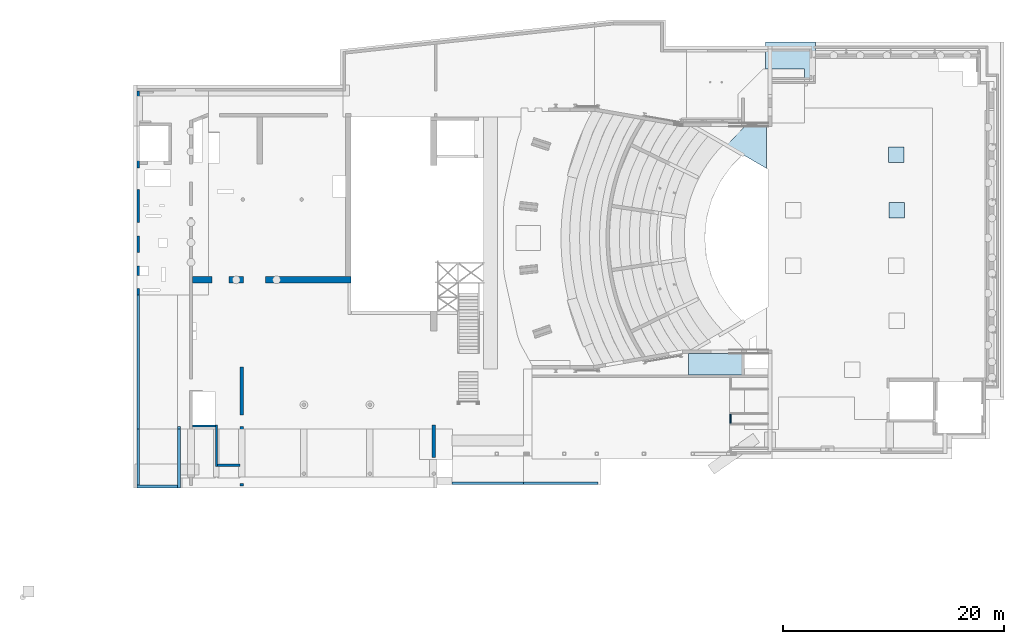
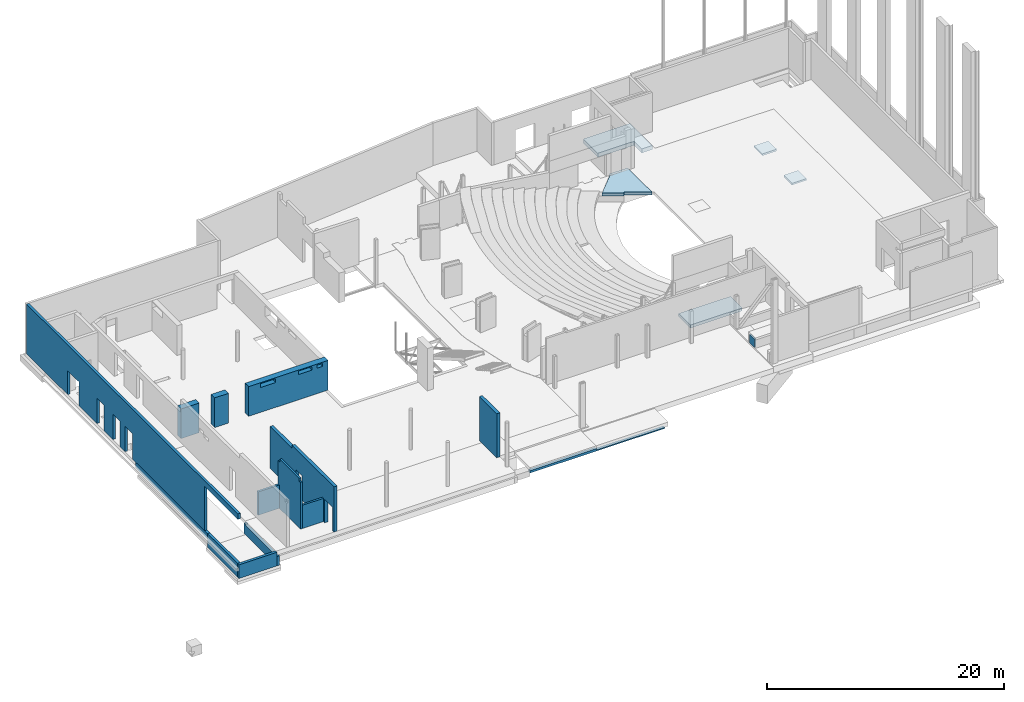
# One storey, part 24 of 34: 13 walls, 5 slabs, 17 openings.
"""IFC2X3 building model written with IfcOpenShell, lengths in millimetres."""

from ifc_helpers import new_model, entity, si_unit, converted_unit, derived_unit, direction, frame, frame_2d, origin, origin_2d_with_axis, place, context, subcontext, project, spatial, polyline, rectangle, outline, extrude, clip, bounded_halfspace, faceted_brep, material, layer, layer_set, layer_usage, type_object, element, save


model = new_model("IFC2X3")

# Units and contexts
model_context = context("Model", 3, precision=0.01, world=origin(), true_north=direction((6.12303176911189e-17, 1.0)))
body_context = subcontext(model_context, "Body", "Model", "MODEL_VIEW")
ifc_project = project(units=[si_unit("LENGTHUNIT", "METRE", prefix="MILLI"), si_unit("AREAUNIT", "SQUARE_METRE", prefix="MILLI"), si_unit("VOLUMEUNIT", "CUBIC_METRE"), converted_unit("PLANEANGLEUNIT", "DEGREE", entity("IfcRatioMeasure", 0.0174532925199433), si_unit("PLANEANGLEUNIT", "RADIAN"), dimensions=[0, 0, 0, 0, 0, 0, 0]), si_unit("MASSUNIT", "GRAM", prefix="KILO"), derived_unit("MASSDENSITYUNIT", [(si_unit("MASSUNIT", "GRAM", prefix="KILO"), 1), (si_unit("LENGTHUNIT", "METRE"), -3)]), derived_unit("MOMENTOFINERTIAUNIT", [(si_unit("LENGTHUNIT", "METRE"), 4)]), si_unit("TIMEUNIT", "SECOND"), si_unit("FREQUENCYUNIT", "HERTZ"), si_unit("THERMODYNAMICTEMPERATUREUNIT", "DEGREE_CELSIUS"), derived_unit("THERMALTRANSMITTANCEUNIT", [(si_unit("MASSUNIT", "GRAM", prefix="KILO"), 1), (si_unit("THERMODYNAMICTEMPERATUREUNIT", "KELVIN"), -1), (si_unit("TIMEUNIT", "SECOND"), -3)]), derived_unit("VOLUMETRICFLOWRATEUNIT", [(si_unit("LENGTHUNIT", "METRE"), 3), (si_unit("TIMEUNIT", "SECOND"), -1)]), si_unit("ELECTRICCURRENTUNIT", "AMPERE"), si_unit("ELECTRICVOLTAGEUNIT", "VOLT"), si_unit("POWERUNIT", "WATT"), si_unit("FORCEUNIT", "NEWTON", prefix="KILO"), si_unit("ILLUMINANCEUNIT", "LUX"), si_unit("LUMINOUSFLUXUNIT", "LUMEN"), si_unit("LUMINOUSINTENSITYUNIT", "CANDELA"), derived_unit("USERDEFINED", [(si_unit("MASSUNIT", "GRAM", prefix="KILO"), -1), (si_unit("LENGTHUNIT", "METRE"), -2), (si_unit("TIMEUNIT", "SECOND"), 3), (si_unit("LUMINOUSFLUXUNIT", "LUMEN"), 1)]), derived_unit("LINEARVELOCITYUNIT", [(si_unit("LENGTHUNIT", "METRE"), 1), (si_unit("TIMEUNIT", "SECOND"), -1)]), si_unit("PRESSUREUNIT", "PASCAL"), derived_unit("USERDEFINED", [(si_unit("LENGTHUNIT", "METRE"), -2), (si_unit("MASSUNIT", "GRAM", prefix="KILO"), 1), (si_unit("TIMEUNIT", "SECOND"), -2)]), derived_unit("LINEARFORCEUNIT", [(si_unit("MASSUNIT", "GRAM", prefix="KILO"), 1), (si_unit("LENGTHUNIT", "METRE"), 1), (si_unit("TIMEUNIT", "SECOND"), -2), (si_unit("LENGTHUNIT", "METRE"), -1)]), derived_unit("PLANARFORCEUNIT", [(si_unit("MASSUNIT", "GRAM", prefix="KILO"), 1), (si_unit("LENGTHUNIT", "METRE"), 1), (si_unit("TIMEUNIT", "SECOND"), -2), (si_unit("LENGTHUNIT", "METRE"), -2)])], contexts=[model_context])

# Site, building, storey
site_placement = place(None, origin())
site = spatial("IfcSite", under=ifc_project, at=site_placement, Name="Theater aan de Parade", CompositionType="ELEMENT")
building_placement = place(site_placement, origin())
building = spatial("IfcBuilding", under=site, at=building_placement, Name="Theater aan de Parade", CompositionType="ELEMENT")
storey_placement = place(building_placement, frame((0.0, 0.0, 3.49116848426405e-09)))
storey = spatial("IfcBuildingStorey", under=building, at=storey_placement, Name="00 begane grond", CompositionType="ELEMENT", Elevation=3.49116848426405e-09)

# Slabs
ifc_material_1 = material(Name="00_PBT_MAT_beton t.p.g._C30/37")
slab_type_1 = type_object("IfcSlabType", Name="Floor:28_PBT_FL_beton t.p.g._d=300_C30/37", PredefinedType="FLOOR")
slab_1_placement = place(storey_placement, origin())
element("IfcSlab", 1, at=slab_1_placement, inside=storey, type_object=slab_type_1, material=ifc_material_1, Name="Floor:28_PBT_FL_beton t.p.g._d=300_C30/37", ObjectType="Floor:28_PBT_FL_beton t.p.g._d=300_C30/37", PredefinedType="FLOOR", context=body_context, shape_type="Brep", body=[
    faceted_brep([(65212.0520755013, 20066.34014876, 660.0), (64962.0520755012, 20066.34014876, 660.0), (60162.6896489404, 20066.34014876, 660.0), (60162.6896489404, 22040.0, 660.0), (63839.0610079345, 22040.0, 660.0), (63839.0610079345, 22020.0, 660.0), (65212.0520755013, 22020.0, 660.0), (65212.0520755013, 22040.0, 960.0), (64962.0520755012, 22040.0, 960.0), (60162.6896489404, 22040.0, 960.0), (60162.6896489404, 20066.34014876, 960.0), (64962.0520755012, 20066.34014876, 960.0), (65212.0520755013, 20066.34014876, 960.0), (65212.0520755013, 22040.0, 825.0), (63839.0610079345, 22040.0, 825.0), (65212.0520755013, 22020.0, 825.0), (63839.0610079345, 22020.0, 825.0)], [[[0, 1, 2, 3, 4, 5, 6]], [[7, 8, 9, 10, 11, 12]], [[9, 8, 7, 13, 14, 4, 3]], [[7, 12, 0, 6, 15, 13]], [[2, 1, 0, 12, 11, 10]], [[3, 2, 10, 9]], [[14, 16, 5, 4]], [[5, 16, 15, 6]], [[16, 14, 13, 15]]]),
])
ifc_material_2 = material(Name="00_PBT_MAT_beton t.p.g.")
ifc_layer_1 = layer(ifc_material_2, 300.0)
ifc_layer_set_1 = layer_set([ifc_layer_1], Name="Floor:28_PBT_FL_beton t.p.g._d=300_bestaand")
ifc_layer_usage_1 = layer_usage(ifc_layer_set_1, "AXIS3", "POSITIVE", 0.0)
slab_type_2 = type_object("IfcSlabType", Name="Floor:28_PBT_FL_beton t.p.g._d=300_bestaand", PredefinedType="FLOOR", material=ifc_layer_set_1)
slab_2_placement = place(storey_placement, origin())
element("IfcSlab", 2, at=slab_2_placement, inside=storey, type_object=slab_type_2, material=ifc_layer_usage_1, Name="Floor:28_PBT_FL_beton t.p.g._d=300_bestaand", ObjectType="Floor:28_PBT_FL_beton t.p.g._d=300_bestaand", PredefinedType="FLOOR", context=body_context, shape_type="SweptSolid", body=[
    extrude(outline(polyline([(-1762.11653079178, -1629.19038818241), (2336.99025271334, -1629.19038818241), (1155.96511033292, 390.006675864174), (1293.174292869, 469.210166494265), (360.219936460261, 2085.42560811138), (-1622.11653079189, 156.869162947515), (-1762.1165307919, 156.869162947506), (-1762.11653079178, -1629.19038818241)])), frame((65576.8691629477, 41087.8834692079, 880.0), z_axis=(0.0, 0.0, -1.0), x_axis=(0.0, -1.0, 0.0)), (0.0, 0.0, 1.0), 300.0),
])
ifc_layer_2 = layer(ifc_material_1, 450.0)
ifc_layer_set_2 = layer_set([ifc_layer_2], Name="Floor:28_PBT_FL_beton t.p.g._d=450_C30/37")
ifc_layer_usage_2 = layer_usage(ifc_layer_set_2, "AXIS3", "POSITIVE", 0.0)
slab_type_3 = type_object("IfcSlabType", Name="Floor:28_PBT_FL_beton t.p.g._d=450_C30/37", PredefinedType="FLOOR", material=ifc_layer_set_2)
slab_3_placement = place(storey_placement, origin())
element("IfcSlab", 3, at=slab_3_placement, inside=storey, type_object=slab_type_3, material=ifc_layer_usage_2, Name="Floor:28_PBT_FL_beton t.p.g._d=450_C30/37", ObjectType="Floor:28_PBT_FL_beton t.p.g._d=450_C30/37", PredefinedType="FLOOR", context=body_context, shape_type="SweptSolid", body=[
    extrude(rectangle(XDim=1399.99999999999, YDim=1399.99999999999, at=origin_2d_with_axis()), frame((78955.0, 39965.0, 430.0), z_axis=(0.0, 0.0, 1.0), x_axis=(0.0, 1.0, 0.0)), (0.0, 0.0, 1.0), 180.000000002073),
])
ifc_layer_usage_3 = layer_usage(ifc_layer_set_2, "AXIS3", "POSITIVE", 0.0)
slab_type_4 = type_object("IfcSlabType", Name="Floor:28_PBT_FL_beton t.p.g._d=450_C30/37", PredefinedType="FLOOR", material=ifc_layer_set_2)
slab_4_placement = place(storey_placement, origin())
element("IfcSlab", 4, at=slab_4_placement, inside=storey, type_object=slab_type_4, material=ifc_layer_usage_3, Name="Floor:28_PBT_FL_beton t.p.g._d=450_C30/37", ObjectType="Floor:28_PBT_FL_beton t.p.g._d=450_C30/37", PredefinedType="FLOOR", context=body_context, shape_type="SweptSolid", body=[
    extrude(rectangle(XDim=1399.99999999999, YDim=1399.99999999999, at=origin_2d_with_axis()), frame((78965.0, 34970.0, 430.0), z_axis=(0.0, 0.0, 1.0), x_axis=(0.0, 1.0, 0.0)), (0.0, 0.0, 1.0), 180.000000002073),
])
ifc_layer_3 = layer(ifc_material_1, 400.0)
ifc_layer_set_3 = layer_set([ifc_layer_3], Name="Foundation Slab:13_PBT_FS_beton t.p.g._d=400_C30/37")
ifc_layer_usage_4 = layer_usage(ifc_layer_set_3, "AXIS3", "POSITIVE", 0.0)
slab_type_5 = type_object("IfcSlabType", Name="Foundation Slab:13_PBT_FS_beton t.p.g._d=400_C30/37", PredefinedType="BASESLAB", material=ifc_layer_set_3)
slab_5_placement = place(storey_placement, origin())
element("IfcSlab", 5, at=slab_5_placement, inside=storey, type_object=slab_type_5, material=ifc_layer_usage_4, Name="Foundation Slab:13_PBT_FS_beton t.p.g._d=400_C30/37", ObjectType="Foundation Slab:13_PBT_FS_beton t.p.g._d=400_C30/37", PredefinedType="BASESLAB", context=body_context, shape_type="SweptSolid", body=[
    extrude(outline(polyline([(-379.290780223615, -2694.81926727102), (2068.70921977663, -2694.81926727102), (2068.70921977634, 1855.90963363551), (-1689.41843955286, 1855.90963363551), (-1689.41843955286, 838.909633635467), (-379.290780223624, 838.909633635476), (-379.290780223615, -2694.81926727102)])), frame((69801.0903663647, 48101.2907802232, -550.0), z_axis=(0.0, 0.0, -1.0), x_axis=(0.0, 1.0, 0.0)), (0.0, 0.0, 1.0), 400.0),
])

# Wall
ifc_layer_4 = layer(ifc_material_1, 300.0)
ifc_layer_set_4 = layer_set([ifc_layer_4], Name="Basic Wall:28_PBT_WA_beton t.p.g._d=300_C30/37")
ifc_layer_usage_5 = layer_usage(ifc_layer_set_4, "AXIS2", "NEGATIVE", 150.0)
wall_type_1 = type_object("IfcWallType", Name="Basic Wall:28_PBT_WA_beton t.p.g._d=300_C30/37", PredefinedType="STANDARD", material=ifc_layer_set_4)
wall_1_placement = place(storey_placement, frame((37153.8581300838, 15560.5355657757, -90.0), z_axis=(0.0, 0.0, 1.0), x_axis=(0.0, -1.0, 0.0)))
element("IfcWallStandardCase", 6, at=wall_1_placement, inside=storey, type_object=wall_type_1, material=ifc_layer_usage_5, Name="Basic Wall:28_PBT_WA_beton t.p.g._d=300_C30/37", ObjectType="Basic Wall:28_PBT_WA_beton t.p.g._d=300_C30/37", context=body_context, shape_type="SweptSolid", body=[
    extrude(rectangle(XDim=2935.0735709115, YDim=300.000000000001, at=frame_2d((1467.53678545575, 9.80548975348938e-13), x_axis=(-1.0, 0.0))), origin(), (0.0, 0.0, 1.0), 4539.99999999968),
])

# Wall, openings
ifc_layer_5 = layer(ifc_material_1, 250.0)
ifc_layer_set_5 = layer_set([ifc_layer_5], Name="Basic Wall:28_PBT_WA_beton t.p.g._d=250_C30/37")
ifc_layer_usage_6 = layer_usage(ifc_layer_set_5, "AXIS2", "POSITIVE", -125.0)
wall_type_2 = type_object("IfcWallType", Name="Basic Wall:28_PBT_WA_beton t.p.g._d=250_C30/37", PredefinedType="STANDARD", material=ifc_layer_set_5)
wall_2_placement = place(storey_placement, frame((10429.1125537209, 10069.3270746, -90.0), z_axis=(0.0, 0.0, 1.0), x_axis=(0.0, 1.0, 0.0)))
wall_2 = element("IfcWallStandardCase", 7, at=wall_2_placement, inside=storey, type_object=wall_type_2, material=ifc_layer_usage_6, Name="Basic Wall:28_PBT_WA_beton t.p.g._d=250_C30/37", ObjectType="Basic Wall:28_PBT_WA_beton t.p.g._d=250_C30/37", context=body_context, shape_type="SweptSolid", body=[
    extrude(rectangle(XDim=35653.6729253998, YDim=249.999999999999, at=frame_2d((17826.8364626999, 3.12638803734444e-13), x_axis=(-1.0, 0.0))), origin(), (0.0, 0.0, 1.0), 5109.99999999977),
])
opening_1_placement = place(wall_2_placement, origin())
element("IfcOpeningElement", 8, at=opening_1_placement, cuts=wall_2, Name="Basic Wall:28_PBT_WA_beton t.p.g._d=250_C30/37", ObjectType="Opening", context=body_context, shape_type="SweptSolid", body=[
    extrude(rectangle(XDim=2459.99999999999, YDim=1934.00000000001, at=frame_2d((0.0, 2.21689333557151e-12), x_axis=(1.0, 0.0))), frame((27741.5685535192, -125.0, 1230.0), z_axis=(0.0, 1.0, 0.0), x_axis=(0.0, 0.0, -1.0)), (0.0, 0.0, 1.0), 249.999999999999),
])
opening_2_placement = place(wall_2_placement, origin())
element("IfcOpeningElement", 9, at=opening_2_placement, cuts=wall_2, Name="Basic Wall:28_PBT_WA_beton t.p.g._d=250_C30/37", ObjectType="Opening", context=body_context, shape_type="SweptSolid", body=[
    extrude(rectangle(XDim=2619.99999999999, YDim=1210.00000000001, at=frame_2d((-2.1600499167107e-12, 0.0), x_axis=(0.0, 1.0))), frame((23171.9813376, -125.0, 1310.0), z_axis=(0.0, 1.0, 0.0), x_axis=(1.0, 0.0, 0.0)), (0.0, 0.0, 1.0), 249.999999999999),
])
opening_3_placement = place(wall_2_placement, origin())
element("IfcOpeningElement", 10, at=opening_3_placement, cuts=wall_2, Name="Basic Wall:28_PBT_WA_beton t.p.g._d=250_C30/37", ObjectType="Opening", context=body_context, shape_type="SweptSolid", body=[
    extrude(rectangle(XDim=4549.99999999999, YDim=5600.0, at=frame_2d((1.13686837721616e-12, 0.0), x_axis=(0.0, 1.0))), frame((2800.0, -125.0, 2275.0), z_axis=(0.0, 1.0, 0.0), x_axis=(1.0, 0.0, 0.0)), (0.0, 0.0, 1.0), 249.999999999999),
])
opening_4_placement = place(wall_2_placement, origin())
element("IfcOpeningElement", 11, at=opening_4_placement, cuts=wall_2, Name="Basic Wall:28_PBT_WA_beton t.p.g._d=250_C30/37", ObjectType="Opening", context=body_context, shape_type="SweptSolid", body=[
    extrude(rectangle(XDim=2619.99999999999, YDim=1210.00000000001, at=frame_2d((-2.1600499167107e-12, 0.0), x_axis=(0.0, 1.0))), frame((20475.6729254, -125.0, 1310.0), z_axis=(0.0, 1.0, 0.0), x_axis=(1.0, 0.0, 0.0)), (0.0, 0.0, 1.0), 249.999999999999),
])
opening_5_placement = place(wall_2_placement, origin())
element("IfcOpeningElement", 12, at=opening_5_placement, cuts=wall_2, Name="Basic Wall:28_PBT_WA_beton t.p.g._d=250_C30/37", ObjectType="Opening", context=body_context, shape_type="SweptSolid", body=[
    extrude(rectangle(XDim=2619.99999999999, YDim=1210.00000000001, at=frame_2d((2.1600499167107e-12, 0.0), x_axis=(0.0, 1.0))), frame((18412.00337005, -125.0, 1310.0), z_axis=(0.0, 1.0, 0.0), x_axis=(1.0, 0.0, 0.0)), (0.0, 0.0, 1.0), 249.999999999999),
])

ifc_layer_6 = layer(ifc_material_1, 600.0)
ifc_layer_set_6 = layer_set([ifc_layer_6], Name="Basic Wall:28_PBT_WA_beton t.p.g._d=600_C30/37")
wall_type_3 = type_object("IfcWallType", Name="Basic Wall:28_PBT_WA_beton t.p.g._d=600_C30/37", PredefinedType="STANDARD", material=ifc_layer_set_6)
wall_3_placement = place(storey_placement, frame((29675.0, 28673.3144998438, -90.0), z_axis=(0.0, 0.0, 1.0), x_axis=(-1.0, 0.0, 0.0)))
wall_3 = element("IfcWall", 13, at=wall_3_placement, inside=storey, type_object=wall_type_3, Name="Basic Wall:28_PBT_WA_beton t.p.g._d=600_C30/37", ObjectType="Basic Wall:28_PBT_WA_beton t.p.g._d=600_C30/37", context=body_context, shape_type="SweptSolid", body=[
    extrude(rectangle(XDim=600.000000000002, YDim=7746.14299750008, at=frame_2d((9.37916411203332e-13, -1157.69049958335), x_axis=(1.0, 0.0))), frame((2715.3809991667, 0.0, 0.0), z_axis=(0.0, 0.0, 1.0), x_axis=(0.0, 1.0, 0.0)), (0.0, 0.0, 1.0), 3059.99999999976),
    extrude(rectangle(XDim=1757.42837088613, YDim=600.000000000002, at=frame_2d((1.08002495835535e-12, -2.1600499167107e-12), x_axis=(1.0, 0.0))), frame((13442.4288120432, 0.0, 0.0), z_axis=(0.0, 0.0, 1.0), x_axis=(-1.0, 0.0, 0.0)), (0.0, 0.0, 1.0), 3059.99999999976),
    extrude(rectangle(XDim=1332.57162910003, YDim=600.000000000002, at=origin_2d_with_axis()), frame((10387.4288120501, 0.0, 0.0), z_axis=(0.0, 0.0, 1.0), x_axis=(-1.0, 0.0, 0.0)), (0.0, 0.0, 1.0), 3059.99999999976),
])
opening_6_placement = place(storey_placement, frame((29675.0, 28673.3144998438, -90.0), z_axis=(0.0, 0.0, 1.0), x_axis=(-1.0, 0.0, 0.0)))
element("IfcOpeningElement", 14, at=opening_6_placement, cuts=wall_3, Name="Basic Wall:28_PBT_WA_beton t.p.g._d=600_C30/37:1", ObjectType="Opening", context=body_context, shape_type="SweptSolid", body=[
    extrude(rectangle(XDim=399.999999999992, YDim=1500.00000000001, at=frame_2d((0.0, 0.0), x_axis=(0.0, 1.0))), frame((5860.06392606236, -300.0, 2760.0), z_axis=(0.0, 1.0, 0.0), x_axis=(-1.0, 0.0, 0.0)), (0.0, 0.0, 1.0), 600.000000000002),
])
opening_7_placement = place(storey_placement, frame((29675.0, 28673.3144998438, -90.0), z_axis=(0.0, 0.0, 1.0), x_axis=(-1.0, 0.0, 0.0)))
element("IfcOpeningElement", 15, at=opening_7_placement, cuts=wall_3, Name="Basic Wall:28_PBT_WA_beton t.p.g._d=600_C30/37:2", ObjectType="Opening", context=body_context, shape_type="SweptSolid", body=[
    extrude(rectangle(XDim=299.999999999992, YDim=550.000000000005, at=frame_2d((0.0, -4.32009983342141e-12), x_axis=(1.0, 0.0))), frame((834.832095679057, -300.0, 2785.0), z_axis=(0.0, 1.0, 0.0), x_axis=(0.0, 0.0, -1.0)), (0.0, 0.0, 1.0), 600.000000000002),
])
opening_8_placement = place(storey_placement, frame((29675.0, 28673.3144998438, -90.0), z_axis=(0.0, 0.0, 1.0), x_axis=(-1.0, 0.0, 0.0)))
element("IfcOpeningElement", 16, at=opening_8_placement, cuts=wall_3, Name="Basic Wall:28_PBT_WA_beton t.p.g._d=600_C30/37:3", ObjectType="Opening", context=body_context, shape_type="SweptSolid", body=[
    extrude(rectangle(XDim=349.999999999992, YDim=1300.0, at=frame_2d((0.0, -2.1600499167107e-12), x_axis=(1.0, 0.0))), frame((2224.74891681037, -300.0, 2785.0), z_axis=(0.0, 1.0, 0.0), x_axis=(0.0, 0.0, -1.0)), (0.0, 0.0, 1.0), 600.000000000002),
])

# Wall
ifc_layer_7 = layer(ifc_material_1, 250.0)
ifc_layer_set_7 = layer_set([ifc_layer_7], Name="Basic Wall:16_PBT_WA_beton t.p.g._d=250_C30/37")
ifc_layer_usage_7 = layer_usage(ifc_layer_set_7, "AXIS2", "NEGATIVE", 125.0)
wall_type_4 = type_object("IfcWallType", Name="Basic Wall:16_PBT_WA_beton t.p.g._d=250_C30/37", PredefinedType="STANDARD", material=ifc_layer_set_7)
wall_4_placement = place(storey_placement, frame((14119.1133121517, 15440.6729253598, -1500.0), z_axis=(0.0, 0.0, 1.0), x_axis=(0.0, -1.0, 0.0)))
element("IfcWallStandardCase", 17, at=wall_4_placement, inside=storey, type_object=wall_type_4, material=ifc_layer_usage_7, Name="Basic Wall:16_PBT_WA_beton t.p.g._d=250_C30/37", ObjectType="Basic Wall:16_PBT_WA_beton t.p.g._d=250_C30/37", context=body_context, shape_type="Clipping", body=[
    clip(clip(clip(clip(extrude(rectangle(XDim=5570.67292535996, YDim=249.999999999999, at=frame_2d((2785.33646267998, -3.76587649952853e-13), x_axis=(-1.0, 0.0))), origin(), (0.0, 0.0, 1.0), 1090.00000000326), bounded_halfspace(frame((250.672925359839, -125.0, 965.0), z_axis=(0.0, 0.0, -1.0), x_axis=(0.0, -1.0, 0.0)), True, frame((250.672925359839, -125.0, 965.0)), polyline([(0.0, 0.0), (5150.0, 0.0), (5150.0, 250.0), (4320.0, 250.0), (0.0, 250.0), (0.0, 0.0)]))), bounded_halfspace(frame((0.0, -125.0, 1090.0), z_axis=(0.0, 0.0, -1.0), x_axis=(0.0, 1.0, 0.0)), True, frame((0.0, -125.0, 1090.0)), polyline([(0.0, 0.0), (250.672925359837, 0.0), (250.672925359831, 250.0), (0.0, 250.0), (0.0, 0.0)]))), bounded_halfspace(frame((5400.67292535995, -125.0, 965.0), z_axis=(0.0, 0.0, 1.0), x_axis=(0.0, 1.0, 0.0)), False, frame((5400.67292535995, -125.0, 965.0)), polyline([(0.0, 0.0), (170.0, 0.0), (170.0, 250.0), (0.0, 250.0), (0.0, 0.0)]))), bounded_halfspace(frame((250.672925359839, -125.0, 965.0), z_axis=(0.0, 0.0, -1.0), x_axis=(0.0, -1.0, 0.0)), True, frame((250.672925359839, -125.0, 965.0)), polyline([(0.0, 0.0), (5150.0, 0.0), (5150.0, 250.0), (4320.0, 250.0), (0.0, 250.0), (0.0, 0.0)]))),
])

# Wall, openings
ifc_layer_usage_8 = layer_usage(ifc_layer_set_7, "AXIS2", "POSITIVE", -125.0)
wall_5_placement = place(storey_placement, frame((10429.1125537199, 15190.0, -1500.0), z_axis=(0.0, 0.0, 1.0), x_axis=(0.0, -1.0, 0.0)))
wall_5 = element("IfcWallStandardCase", 18, at=wall_5_placement, inside=storey, type_object=wall_type_4, material=ifc_layer_usage_8, Name="Basic Wall:16_PBT_WA_beton t.p.g._d=250_C30/37", ObjectType="Basic Wall:16_PBT_WA_beton t.p.g._d=250_C30/37", context=body_context, shape_type="SweptSolid", body=[
    extrude(rectangle(XDim=5070.00000000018, YDim=249.999999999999, at=frame_2d((2535.00000000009, -4.19220214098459e-13), x_axis=(-1.0, 0.0))), origin(), (0.0, 0.0, 1.0), 1410.00000000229),
])
opening_9_placement = place(wall_5_placement, origin())
element("IfcOpeningElement", 19, at=opening_9_placement, cuts=wall_5, Name="Basic Wall:16_PBT_WA_beton t.p.g._d=250_C30/37", ObjectType="Opening", context=body_context, shape_type="SweptSolid", body=[
    extrude(rectangle(XDim=4549.99999999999, YDim=5600.0, at=frame_2d((0.0, 1.13686837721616e-12), x_axis=(1.0, 0.0))), frame((2320.67292535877, -125.0, 3685.0), z_axis=(0.0, 1.0, 0.0), x_axis=(0.0, 0.0, -1.0)), (0.0, 0.0, 1.0), 249.999999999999),
])
opening_10_placement = place(wall_5_placement, origin())
element("IfcOpeningElement", 20, at=opening_10_placement, cuts=wall_5, Name="Basic Wall:16_PBT_WA_beton t.p.g._d=250_C30/37", ObjectType="Opening", context=body_context, shape_type="SweptSolid", body=[
    extrude(rectangle(XDim=2459.99999999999, YDim=1934.00000000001, at=frame_2d((-2.1600499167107e-12, 0.0), x_axis=(0.0, 1.0))), frame((-22620.8956281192, -125.0, 2640.0), z_axis=(0.0, 1.0, 0.0), x_axis=(1.0, 0.0, 0.0)), (0.0, 0.0, 1.0), 249.999999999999),
])
opening_11_placement = place(wall_5_placement, origin())
element("IfcOpeningElement", 21, at=opening_11_placement, cuts=wall_5, Name="Basic Wall:16_PBT_WA_beton t.p.g._d=250_C30/37", ObjectType="Opening", context=body_context, shape_type="SweptSolid", body=[
    extrude(rectangle(XDim=2619.99999999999, YDim=1210.00000000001, at=frame_2d((0.0, -2.1600499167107e-12), x_axis=(1.0, 0.0))), frame((-18051.3084122, -125.0, 2720.0), z_axis=(0.0, 1.0, 0.0), x_axis=(0.0, 0.0, -1.0)), (0.0, 0.0, 1.0), 249.999999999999),
])
opening_12_placement = place(wall_5_placement, origin())
element("IfcOpeningElement", 22, at=opening_12_placement, cuts=wall_5, Name="Basic Wall:16_PBT_WA_beton t.p.g._d=250_C30/37", ObjectType="Opening", context=body_context, shape_type="SweptSolid", body=[
    extrude(rectangle(XDim=2619.99999999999, YDim=1210.00000000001, at=frame_2d((0.0, -2.1600499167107e-12), x_axis=(1.0, 0.0))), frame((-15355.0, -125.0, 2720.0), z_axis=(0.0, 1.0, 0.0), x_axis=(0.0, 0.0, -1.0)), (0.0, 0.0, 1.0), 249.999999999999),
])
opening_13_placement = place(wall_5_placement, origin())
element("IfcOpeningElement", 23, at=opening_13_placement, cuts=wall_5, Name="Basic Wall:16_PBT_WA_beton t.p.g._d=250_C30/37", ObjectType="Opening", context=body_context, shape_type="SweptSolid", body=[
    extrude(rectangle(XDim=2619.99999999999, YDim=1210.00000000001, at=frame_2d((0.0, 2.1600499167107e-12), x_axis=(1.0, 0.0))), frame((-13291.33044465, -125.0, 2720.0), z_axis=(0.0, 1.0, 0.0), x_axis=(0.0, 0.0, -1.0)), (0.0, 0.0, 1.0), 249.999999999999),
])

# Walls
ifc_layer_usage_9 = layer_usage(ifc_layer_set_7, "AXIS2", "NEGATIVE", 125.0)
wall_6_placement = place(storey_placement, frame((13994.1133121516, 9995.0, -1500.0), z_axis=(0.0, 0.0, 1.0), x_axis=(-1.0, 0.0, 0.0)))
element("IfcWallStandardCase", 24, at=wall_6_placement, inside=storey, type_object=wall_type_4, material=ifc_layer_usage_9, Name="Basic Wall:16_PBT_WA_beton t.p.g._d=250_C30/37", ObjectType="Basic Wall:16_PBT_WA_beton t.p.g._d=250_C30/37", context=body_context, shape_type="SweptSolid", body=[
    extrude(rectangle(XDim=3690.00075843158, YDim=249.999999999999, at=frame_2d((1845.00037921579, -6.75015598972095e-13), x_axis=(-1.0, 0.0))), origin(), (0.0, 0.0, 1.0), 1410.00000000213),
])
ifc_layer_usage_10 = layer_usage(ifc_layer_set_7, "AXIS2", "POSITIVE", -125.0)
wall_7_placement = place(storey_placement, frame((38815.0, 10285.0, -800.0)))
element("IfcWallStandardCase", 25, at=wall_7_placement, inside=storey, type_object=wall_type_4, material=ifc_layer_usage_10, Name="Basic Wall:16_PBT_WA_beton t.p.g._d=250_C30/37", ObjectType="Basic Wall:16_PBT_WA_beton t.p.g._d=250_C30/37", context=body_context, shape_type="Clipping", body=[
    clip(clip(extrude(rectangle(XDim=13160.0, YDim=249.999999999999, at=frame_2d((6580.00000000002, -6.75015598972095e-13), x_axis=(-1.0, 0.0))), origin(), (0.0, 0.0, 1.0), 250.000000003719), bounded_halfspace(frame((6460.0, 125.0, 120.0), z_axis=(0.0, 0.0, -1.0), x_axis=(0.0, -1.0, 0.0)), True, frame((6460.0, 125.0, 120.0), z_axis=(0.0, 0.0, -1.0), x_axis=(0.0, -1.0, 0.0)), polyline([(0.0, 0.0), (0.0, -6700.0), (250.0, -6700.0), (250.0, 0.0), (0.0, 0.0)]))), bounded_halfspace(frame((6460.0, -125.0, 120.0), z_axis=(-1.0, 0.0, 0.0), x_axis=(0.0, 0.0, 1.0)), True, frame((6460.0, -125.0, 120.0), z_axis=(-1.0, 0.0, 0.0), x_axis=(0.0, 0.0, 1.0)), polyline([(0.0, 0.0), (130.0, 0.0), (130.0, 250.0), (0.0, 250.0), (0.0, 0.0)]))),
])
ifc_layer_usage_11 = layer_usage(ifc_layer_set_7, "AXIS2", "POSITIVE", -125.0)
wall_8_placement = place(storey_placement, frame((10429.1125537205, 27320.0, -690.0), z_axis=(0.0, 0.0, 1.0), x_axis=(0.0, -1.0, 0.0)))
element("IfcWallStandardCase", 26, at=wall_8_placement, inside=storey, type_object=wall_type_4, material=ifc_layer_usage_11, Name="Basic Wall:16_PBT_WA_beton t.p.g._d=250_C30/37", ObjectType="Basic Wall:16_PBT_WA_beton t.p.g._d=250_C30/37", context=body_context, shape_type="SweptSolid", body=[
    extrude(rectangle(XDim=12129.9999999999, YDim=249.999999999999, at=frame_2d((6064.99999999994, 2.98427949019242e-13), x_axis=(-1.0, 0.0))), origin(), (0.0, 0.0, 1.0), 599.999999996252),
])

# Wall, openings
ifc_material_3 = material(Name="00_PBT_MAT_beton t.p.g._C53/65")
ifc_layer_8 = layer(ifc_material_3, 300.0)
ifc_layer_set_8 = layer_set([ifc_layer_8], Name="Basic Wall:28_PBT_WA_beton t.p.g._d=300_C53/65")
ifc_layer_usage_12 = layer_usage(ifc_layer_set_8, "AXIS2", "NEGATIVE", 150.0)
wall_type_5 = type_object("IfcWallType", Name="Basic Wall:28_PBT_WA_beton t.p.g._d=300_C53/65", PredefinedType="STANDARD", material=ifc_layer_set_8)
wall_9_placement = place(storey_placement, frame((19803.8570025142, 20811.3674530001, -90.0), z_axis=(0.0, 0.0, 1.0), x_axis=(0.0, -1.0, 0.0)))
wall_9 = element("IfcWallStandardCase", 27, at=wall_9_placement, inside=storey, type_object=wall_type_5, material=ifc_layer_usage_12, Name="Basic Wall:28_PBT_WA_beton t.p.g._d=300_C53/65", ObjectType="Basic Wall:28_PBT_WA_beton t.p.g._d=300_C53/65", context=body_context, shape_type="Clipping", body=[
    clip(clip(clip(clip(extrude(rectangle(XDim=10771.3674530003, YDim=300.000000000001, at=frame_2d((5385.68372650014, 0.0), x_axis=(-1.0, 0.0))), origin(), (0.0, 0.0, 1.0), 4649.99999999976), bounded_halfspace(frame((0.0, -150.0, 4360.0), z_axis=(0.0, 0.0, -1.0), x_axis=(0.0, -1.0, 0.0)), True, frame((0.0, -150.0, 4360.0)), polyline([(0.0, 0.0), (2800.05900610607, 0.0), (2800.05900610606, 300.0), (0.0, 300.0), (0.0, 0.0)]))), bounded_halfspace(frame((10771.3674530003, -150.0, 4650.0), z_axis=(0.0, 0.0, -1.0), x_axis=(0.0, -1.0, 0.0)), True, frame((10771.3674530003, -150.0, 4650.0)), polyline([(0.0, 0.0), (0.0, 300.0), (-7071.30844689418, 300.0), (-7071.30844689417, 0.0), (0.0, 0.0)]))), bounded_halfspace(frame((0.0, -150.0, 4360.0), z_axis=(0.0, 0.0, -1.0), x_axis=(0.0, -1.0, 0.0)), True, frame((0.0, -150.0, 4360.0)), polyline([(0.0, 0.0), (2800.05900610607, 0.0), (2800.05900610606, 300.0), (0.0, 300.0), (0.0, 0.0)]))), bounded_halfspace(frame((2800.05900610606, 150.0, 4360.0), z_axis=(0.0, 0.0, 1.0), x_axis=(0.0, 1.0, 0.0)), False, frame((2800.05900610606, 150.0, 4360.0)), polyline([(0.0, 0.0), (0.0, -300.0), (900.0, -300.0), (900.0, 0.0), (0.0, 0.0)]))),
])
opening_14_placement = place(wall_9_placement, origin())
element("IfcOpeningElement", 28, at=opening_14_placement, cuts=wall_9, Name="Basic Wall:28_PBT_WA_beton t.p.g._d=300_C53/65", ObjectType="Opening", context=body_context, shape_type="SweptSolid", body=[
    extrude(rectangle(XDim=2509.99999999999, YDim=1054.00000000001, at=frame_2d((1.08002495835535e-12, 0.0), x_axis=(0.0, 1.0))), frame((4854.36745300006, -150.0, 1255.0), z_axis=(0.0, 1.0, 0.0), x_axis=(1.0, 0.0, 0.0)), (0.0, 0.0, 1.0), 300.000000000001),
])
opening_15_placement = place(wall_9_placement, origin())
element("IfcOpeningElement", 29, at=opening_15_placement, cuts=wall_9, Name="Basic Wall:28_PBT_WA_beton t.p.g._d=300_C53/65", ObjectType="Opening", context=body_context, shape_type="SweptSolid", body=[
    extrude(rectangle(XDim=2419.99999999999, YDim=1354.0, at=frame_2d((0.0, 0.0), x_axis=(0.0, 1.0))), frame((9882.04037840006, -150.0, 1210.0), z_axis=(0.0, 1.0, 0.0), x_axis=(1.0, 0.0, 0.0)), (0.0, 0.0, 1.0), 300.000000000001),
])

ifc_layer_9 = layer(ifc_material_1, 200.0)
ifc_layer_set_9 = layer_set([ifc_layer_9], Name="Basic Wall:28_PBT_WA_beton t.p.g._d=200_C30/37")
ifc_layer_usage_13 = layer_usage(ifc_layer_set_9, "AXIS2", "NEGATIVE", 100.0)
wall_type_6 = type_object("IfcWallType", Name="Basic Wall:28_PBT_WA_beton t.p.g._d=200_C30/37", PredefinedType="STANDARD", material=ifc_layer_set_9)
wall_10_placement = place(storey_placement, frame((17503.857002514, 15564.9752768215, -90.0), z_axis=(0.0, 0.0, 1.0), x_axis=(0.0, -1.0, 0.0)))
wall_10 = element("IfcWallStandardCase", 30, at=wall_10_placement, inside=storey, type_object=wall_type_6, material=ifc_layer_usage_13, Name="Basic Wall:28_PBT_WA_beton t.p.g._d=200_C30/37", ObjectType="Basic Wall:28_PBT_WA_beton t.p.g._d=200_C30/37", context=body_context, shape_type="Clipping", body=[
    clip(clip(extrude(rectangle(XDim=3745.64820218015, YDim=199.999999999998, at=frame_2d((1872.82410109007, -6.03961325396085e-13), x_axis=(-1.0, 0.0))), origin(), (0.0, 0.0, 1.0), 5110.00000000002), bounded_halfspace(frame((3545.64820218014, -100.0, 4810.0), z_axis=(0.0, 0.0, -1.0), x_axis=(0.0, -1.0, 0.0)), True, frame((3545.64820218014, -100.0, 4810.0)), polyline([(0.0, 0.0), (200.0, 0.0), (200.0, 200.0), (110.0, 200.0), (0.0, 200.0), (0.0, 0.0)]))), bounded_halfspace(frame((0.0, -100.0, 4810.0), z_axis=(0.0, 0.0, -1.0), x_axis=(0.0, -1.0, 0.0)), True, frame((0.0, -100.0, 4810.0)), polyline([(0.0, 0.0), (277.923464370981, 0.0), (277.923464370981, 200.0), (137.008810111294, 200.0), (0.0, 200.0), (0.0, 0.0)]))),
])
opening_16_placement = place(wall_10_placement, origin())
element("IfcOpeningElement", 31, at=opening_16_placement, cuts=wall_10, Name="Basic Wall:28_PBT_WA_beton t.p.g._d=200_C30/37", ObjectType="Opening", context=body_context, shape_type="SweptSolid", body=[
    extrude(rectangle(XDim=300.000000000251, YDim=100.000000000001, at=frame_2d((-5.40012479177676e-13, -1.08357767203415e-12), x_axis=(1.0, 0.0))), frame((3595.64820218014, 100.0, 4960.0), z_axis=(0.0, -1.0, 0.0), x_axis=(0.0, 0.0, 1.0)), (0.0, 0.0, 1.0), 200.0),
])
opening_17_placement = place(wall_10_placement, origin())
element("IfcOpeningElement", 32, at=opening_17_placement, cuts=wall_10, Name="Basic Wall:28_PBT_WA_beton t.p.g._d=200_C30/37", ObjectType="Opening", context=body_context, shape_type="SweptSolid", body=[
    extrude(rectangle(XDim=300.000000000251, YDim=177.923464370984, at=frame_2d((1.08002495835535e-12, 5.40012479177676e-13), x_axis=(0.0, 1.0))), frame((188.961732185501, 100.0, 4960.0), z_axis=(0.0, -1.0, 0.0), x_axis=(-1.0, 0.0, 0.0)), (0.0, 0.0, 1.0), 200.0),
])

# Walls
ifc_layer_usage_14 = layer_usage(ifc_layer_set_9, "AXIS2", "NEGATIVE", 100.0)
wall_11_placement = place(storey_placement, frame((17403.857002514, 15464.9752768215, -90.0), z_axis=(0.0, 0.0, 1.0), x_axis=(-1.0, 0.0, 0.0)))
element("IfcWallStandardCase", 33, at=wall_11_placement, inside=storey, type_object=wall_type_6, material=ifc_layer_usage_14, Name="Basic Wall:28_PBT_WA_beton t.p.g._d=200_C30/37", ObjectType="Basic Wall:28_PBT_WA_beton t.p.g._d=200_C30/37", context=body_context, shape_type="SweptSolid", body=[
    extrude(rectangle(XDim=2050.00000000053, YDim=199.999999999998, at=frame_2d((1025.00000000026, 5.54223333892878e-13), x_axis=(-1.0, 0.0))), origin(), (0.0, 0.0, 1.0), 2409.99999999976),
])
ifc_layer_usage_15 = layer_usage(ifc_layer_set_9, "AXIS2", "NEGATIVE", 100.0)
wall_12_placement = place(storey_placement, frame((19653.857002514, 11919.3270746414, -90.0), z_axis=(0.0, 0.0, 1.0), x_axis=(-1.0, 0.0, 0.0)))
element("IfcWallStandardCase", 34, at=wall_12_placement, inside=storey, type_object=wall_type_6, material=ifc_layer_usage_15, Name="Basic Wall:28_PBT_WA_beton t.p.g._d=200_C30/37", ObjectType="Basic Wall:28_PBT_WA_beton t.p.g._d=200_C30/37", context=body_context, shape_type="SweptSolid", body=[
    extrude(rectangle(XDim=2050.00000000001, YDim=200.000000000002, at=frame_2d((1025.0, 5.47117906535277e-13), x_axis=(-1.0, 0.0))), origin(), (0.0, 0.0, 1.0), 2389.99999999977),
])
ifc_layer_10 = layer(ifc_material_1, 150.0)
ifc_layer_set_10 = layer_set([ifc_layer_10], Name="Basic Wall:28_PBT_WA_beton t.p.g._d=150_C30/37")
ifc_layer_usage_16 = layer_usage(ifc_layer_set_10, "AXIS2", "NEGATIVE", 75.0)
wall_type_7 = type_object("IfcWallType", Name="Basic Wall:28_PBT_WA_beton t.p.g._d=150_C30/37", PredefinedType="STANDARD", material=ifc_layer_set_10)
wall_13_placement = place(storey_placement, frame((63955.2595511, 15715.7628275, -20.0), z_axis=(0.0, 0.0, 1.0), x_axis=(0.0, 1.0, 0.0)))
element("IfcWallStandardCase", 35, at=wall_13_placement, inside=storey, type_object=wall_type_7, material=ifc_layer_usage_16, Name="Basic Wall:28_PBT_WA_beton t.p.g._d=150_C30/37", ObjectType="Basic Wall:28_PBT_WA_beton t.p.g._d=150_C30/37", context=body_context, shape_type="SweptSolid", body=[
    extrude(rectangle(XDim=816.006631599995, YDim=150.000000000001, at=frame_2d((408.003315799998, -6.67910171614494e-13), x_axis=(-1.0, 0.0))), origin(), (0.0, 0.0, 1.0), 860.000000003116),
])

save(model, "model.ifc")
